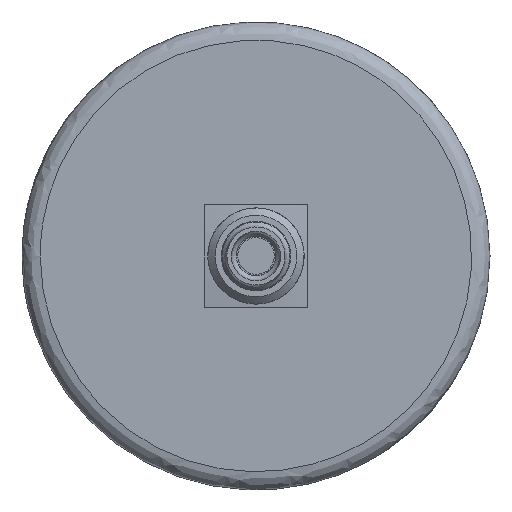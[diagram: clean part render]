
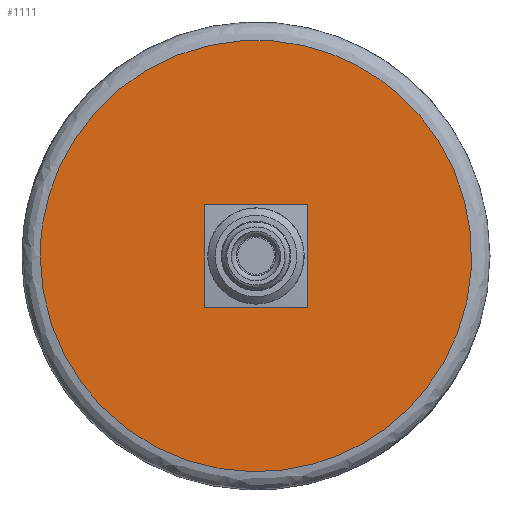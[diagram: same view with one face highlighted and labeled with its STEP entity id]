
A CAD part, left-side view. The second image highlights one B-rep face of the part: STEP entity #1111.
In plain terms, the highlighted free-form (B-spline) face has degree [1, 1] with [2, 2] control points.
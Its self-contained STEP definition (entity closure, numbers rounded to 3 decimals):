
#914=CARTESIAN_POINT('V23',(0.,-7.0,7.0));
#915=VERTEX_POINT('V23',#914);
#921=CARTESIAN_POINT('V24',(0.,7.0,7.0));
#922=VERTEX_POINT('V24',#921);
#923=CARTESIAN_POINT('E35',(0.,7.0,7.0));
#924=CARTESIAN_POINT('E35',(0.,-7.0,7.0));
#925=B_SPLINE_CURVE_WITH_KNOTS('E35',1,(#923,#924),.POLYLINE_FORM.,
   .F.,.U.,(2,2),(0.0,1.867),.UNSPECIFIED.);
#926=EDGE_CURVE('E35',#922,#915,#925,.T.);
#950=CARTESIAN_POINT('V25',(0.,-7.0,-7.0));
#951=VERTEX_POINT('V25',#950);
#957=CARTESIAN_POINT('E38',(0.,-7.0,7.0));
#958=CARTESIAN_POINT('E38',(0.,-7.0,-7.0));
#959=B_SPLINE_CURVE_WITH_KNOTS('E38',1,(#957,#958),.POLYLINE_FORM.,
   .F.,.U.,(2,2),(0.0,1.867),.UNSPECIFIED.);
#960=EDGE_CURVE('E38',#915,#951,#959,.T.);
#980=CARTESIAN_POINT('V26',(0.,7.0,-7.0));
#981=VERTEX_POINT('V26',#980);
#987=CARTESIAN_POINT('E40',(0.,-7.0,-7.0));
#988=CARTESIAN_POINT('E40',(0.,7.0,-7.0));
#989=B_SPLINE_CURVE_WITH_KNOTS('E40',1,(#987,#988),.POLYLINE_FORM.,
   .F.,.U.,(2,2),(0.0,1.867),.UNSPECIFIED.);
#990=EDGE_CURVE('E40',#951,#981,#989,.T.);
#1070=CARTESIAN_POINT('E41',(0.,7.0,-7.0));
#1071=CARTESIAN_POINT('E41',(0.,7.0,7.0));
#1072=B_SPLINE_CURVE_WITH_KNOTS('E41',1,(#1070,#1071),
   .POLYLINE_FORM.,.F.,.U.,(2,2),(0.0,1.867),
   .UNSPECIFIED.);
#1073=EDGE_CURVE('E41',#981,#922,#1072,.T.);
#1079=CARTESIAN_POINT('F21',(0.,-35.2,
   35.2));
#1080=CARTESIAN_POINT('F21',(0.,35.2,
   35.2));
#1081=CARTESIAN_POINT('F21',(0.,-35.2,
   -35.2));
#1082=CARTESIAN_POINT('F21',(0.,35.2,
   -35.2));
#1083=QUASI_UNIFORM_SURFACE('F21',1,1,((#1079,#1081),(#1080,#1082))
,.PLANE_SURF.,.F.,.F.,.U.);
#1084=CARTESIAN_POINT('V13',(0.,29.5,0.0)
   );
#1085=VERTEX_POINT('V13',#1084);
#1086=CARTESIAN_POINT('E20',(0.,29.5,
   0.));
#1087=CARTESIAN_POINT('E20',(0.,29.5,
   -51.095));
#1088=CARTESIAN_POINT('E20',(0.,-14.75,
   -25.548));
#1089=CARTESIAN_POINT('E20',(0.,-59.0,0.));
#1090=CARTESIAN_POINT('E20',(0.,-14.75,
   25.548));
#1091=CARTESIAN_POINT('E20',(0.,29.5,
   51.095));
#1092=CARTESIAN_POINT('E20',(0.,29.5,
   0.));
#1100=(BOUNDED_CURVE()B_SPLINE_CURVE(2,(#1086,#1087,#1088,#1089,
   #1090,#1091,#1092),.CIRCULAR_ARC.,.T.,.U.)
   B_SPLINE_CURVE_WITH_KNOTS((3,2,2,3),(2.0,17.733,
   33.467,49.2),.UNSPECIFIED.)CURVE()
   GEOMETRIC_REPRESENTATION_ITEM()RATIONAL_B_SPLINE_CURVE((1.0,
   0.5,1.0,0.5,1.0,0.5,1.0)
   )REPRESENTATION_ITEM('E20'));
#1101=EDGE_CURVE('E20',#1085,#1085,#1100,.T.);
#1102=ORIENTED_EDGE('E20',*,*,#1101,.T.);
#1103=EDGE_LOOP('F21',(#1102));
#1104=FACE_OUTER_BOUND('F21',#1103,.T.);
#1105=ORIENTED_EDGE('E41',*,*,#1073,.T.);
#1106=ORIENTED_EDGE('E35',*,*,#926,.T.);
#1107=ORIENTED_EDGE('E38',*,*,#960,.T.);
#1108=ORIENTED_EDGE('E40',*,*,#990,.T.);
#1109=EDGE_LOOP('F21',(#1105,#1106,#1107,#1108));
#1110=FACE_BOUND('F21',#1109,.T.);
#1111=ADVANCED_FACE('F21',(#1104,#1110),#1083,.T.);
